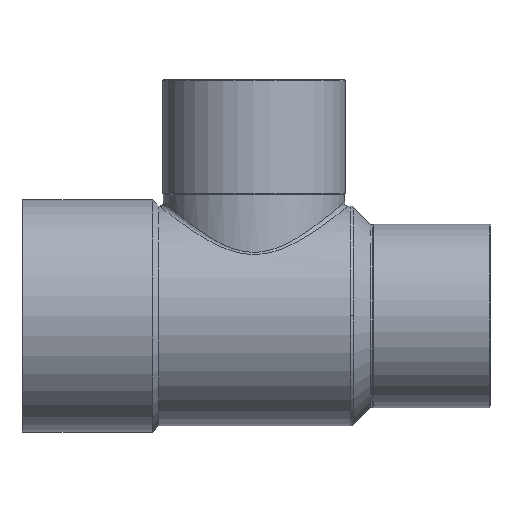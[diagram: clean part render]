
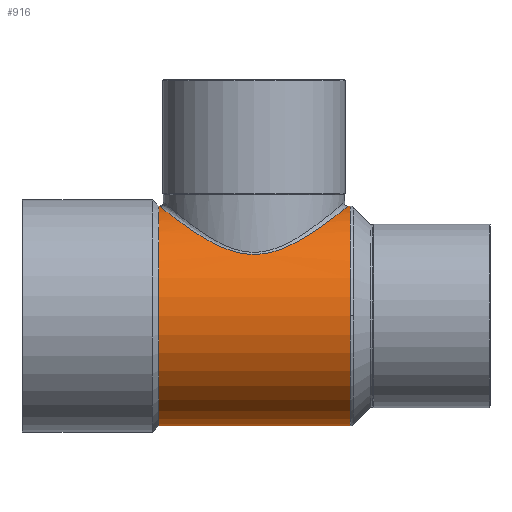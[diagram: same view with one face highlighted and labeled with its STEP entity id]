
A CAD part, top view. The second image highlights one B-rep face of the part: STEP entity #916.
In plain terms, the highlighted cylindrical face has radius 27 mm (diameter 54 mm), a partial arc.
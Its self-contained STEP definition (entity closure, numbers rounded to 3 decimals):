
#305=CARTESIAN_POINT('',(-23.379,27.,0.0));
#306=VERTEX_POINT('',#305);
#322=CARTESIAN_POINT('',(-23.379,-27.,0.));
#323=VERTEX_POINT('',#322);
#330=CARTESIAN_POINT('',(-23.379,0.0,0.0));
#331=DIRECTION('',(1.0,0.0,0.0));
#332=DIRECTION('',(0.0,1.0,0.0));
#333=AXIS2_PLACEMENT_3D('',#330,#331,#332);
#334=CIRCLE('',#333,27.);
#335=EDGE_CURVE('',#306,#323,#334,.T.);
#847=CARTESIAN_POINT('',(0.337,0.0,0.0));
#848=DIRECTION('',(1.0,0.0,0.0));
#849=DIRECTION('',(0.0,1.0,0.0));
#850=AXIS2_PLACEMENT_3D('',#847,#848,#849);
#851=CYLINDRICAL_SURFACE('',#850,27.);
#852=CARTESIAN_POINT('',(-23.25,27.,0.));
#853=VERTEX_POINT('',#852);
#854=CARTESIAN_POINT('',(-23.379,27.,0.0));
#855=DIRECTION('',(1.0,0.,0.));
#856=VECTOR('',#855,0.129);
#857=LINE('',#854,#856);
#858=EDGE_CURVE('',#306,#853,#857,.T.);
#859=ORIENTED_EDGE('',*,*,#858,.F.);
#860=ORIENTED_EDGE('',*,*,#335,.T.);
#861=CARTESIAN_POINT('',(23.639,-27.,0.));
#862=VERTEX_POINT('',#861);
#863=CARTESIAN_POINT('',(23.639,-27.,0.));
#864=DIRECTION('',(-1.0,0.0,0.0));
#865=VECTOR('',#864,47.018);
#866=LINE('',#863,#865);
#867=EDGE_CURVE('',#862,#323,#866,.T.);
#868=ORIENTED_EDGE('',*,*,#867,.F.);
#869=CARTESIAN_POINT('',(23.639,0.,27.));
#870=VERTEX_POINT('',#869);
#871=CARTESIAN_POINT('',(23.639,0.0,0.0));
#872=DIRECTION('',(1.0,0.0,0.0));
#873=DIRECTION('',(0.0,-1.0,0.0));
#874=AXIS2_PLACEMENT_3D('',#871,#872,#873);
#875=CIRCLE('',#874,27.);
#876=EDGE_CURVE('',#870,#862,#875,.T.);
#877=ORIENTED_EDGE('',*,*,#876,.F.);
#878=CARTESIAN_POINT('',(23.639,27.,0.0));
#879=VERTEX_POINT('',#878);
#880=CARTESIAN_POINT('',(23.639,0.0,0.0));
#881=DIRECTION('',(1.0,0.0,0.0));
#882=DIRECTION('',(0.0,-1.0,0.0));
#883=AXIS2_PLACEMENT_3D('',#880,#881,#882);
#884=CIRCLE('',#883,27.);
#885=EDGE_CURVE('',#879,#870,#884,.T.);
#886=ORIENTED_EDGE('',*,*,#885,.F.);
#887=CARTESIAN_POINT('',(23.25,27.,0.));
#888=VERTEX_POINT('',#887);
#889=CARTESIAN_POINT('',(23.25,27.,0.));
#890=DIRECTION('',(1.0,0.0,0.0));
#891=VECTOR('',#890,0.389);
#892=LINE('',#889,#891);
#893=EDGE_CURVE('',#888,#879,#892,.T.);
#894=ORIENTED_EDGE('',*,*,#893,.F.);
#895=CARTESIAN_POINT('',(-23.25,27.,0.));
#896=CARTESIAN_POINT('',(-23.25,27.,4.267));
#897=CARTESIAN_POINT('',(-21.913,25.907,8.476));
#898=CARTESIAN_POINT('',(-17.829,22.817,14.809));
#899=CARTESIAN_POINT('',(-15.317,20.966,17.197));
#900=CARTESIAN_POINT('',(-9.98,17.768,20.431));
#901=CARTESIAN_POINT('',(-7.289,16.366,21.495));
#902=CARTESIAN_POINT('',(-1.496,14.893,22.537));
#903=CARTESIAN_POINT('',(1.533,14.896,22.536));
#904=CARTESIAN_POINT('',(7.079,16.319,21.528));
#905=CARTESIAN_POINT('',(9.571,17.566,20.584));
#906=CARTESIAN_POINT('',(15.632,21.093,17.14));
#907=CARTESIAN_POINT('',(18.772,23.507,13.987));
#908=CARTESIAN_POINT('',(22.372,26.286,6.942));
#909=CARTESIAN_POINT('',(23.25,27.,3.477));
#910=CARTESIAN_POINT('',(23.25,27.,0.));
#911=B_SPLINE_CURVE_WITH_KNOTS('',3,(#895,#896,#897,#898,#899,#900,#901,#902,#903,#904,#905,#906,#907,#908,#909,#910),.UNSPECIFIED.,.F.,.U.,(4,2,2,2,2,2,2,4),(3.62,4.858,5.95,6.837,7.648,8.46,9.85,10.862),.UNSPECIFIED.);
#912=EDGE_CURVE('',#853,#888,#911,.T.);
#913=ORIENTED_EDGE('',*,*,#912,.F.);
#914=EDGE_LOOP('',(#859,#860,#868,#877,#886,#894,#913));
#915=FACE_OUTER_BOUND('',#914,.T.);
#916=ADVANCED_FACE('',(#915),#851,.T.);
